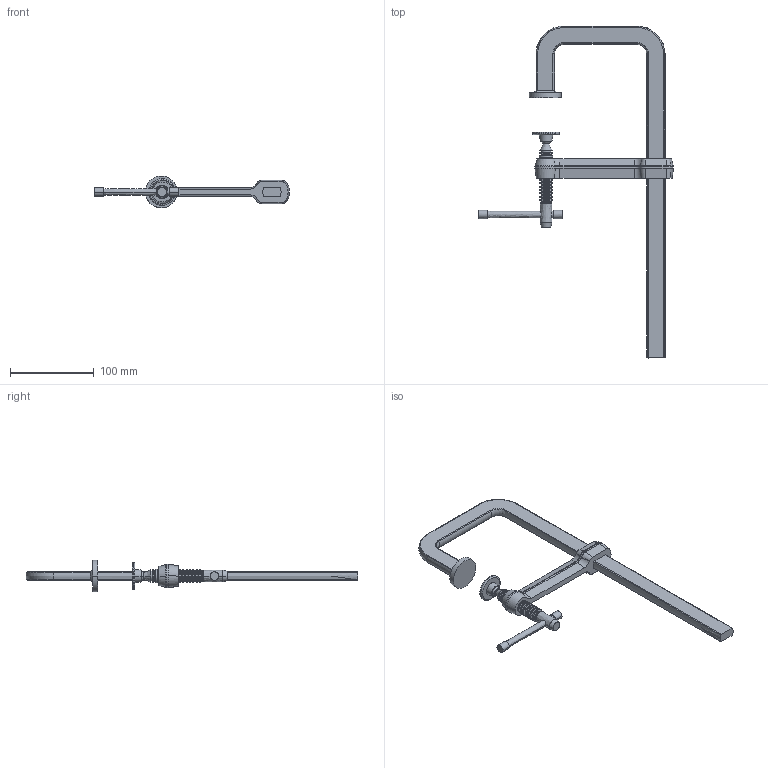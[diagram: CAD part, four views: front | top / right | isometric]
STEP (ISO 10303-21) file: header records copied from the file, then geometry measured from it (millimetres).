
FILE_DESCRIPTION( ( 'STEP AP214' ), '1' );
FILE_NAME( 'X:/CAD_Daten_Platzhalter/GU25-12-6K/GU25-12-6ZK.stp', ' ', ( ' ' ), ( ' ' ), 'PSStep 11.0', ' ', ' ' );
FILE_SCHEMA( ( 'AUTOMOTIVE_DESIGN { 1 0 10303 214 1 1 1 1 }' ) );
Length unit declared in the file: metre
Products named in the file (3): 1; 2; 3
Bounding box: 233 x 397 x 38 mm (x, y, z)
Volume: 201166.2 mm3; surface area: 62422.5 mm2
Topology: 3 solids, 3 shells, 276 faces, 588 edges, 322 vertices
Faces by surface type: bspline 276
Entity records: 15259 total; most frequent: CARTESIAN_POINT 9616, ORIENTED_EDGE 1176, EDGE_CURVE 588, B_SPLINE_CURVE_WITH_KNOTS 368, VERTEX_POINT 322, EDGE_LOOP 284, STYLED_ITEM 276, PRESENTATION_STYLE_ASSIGNMENT 276
